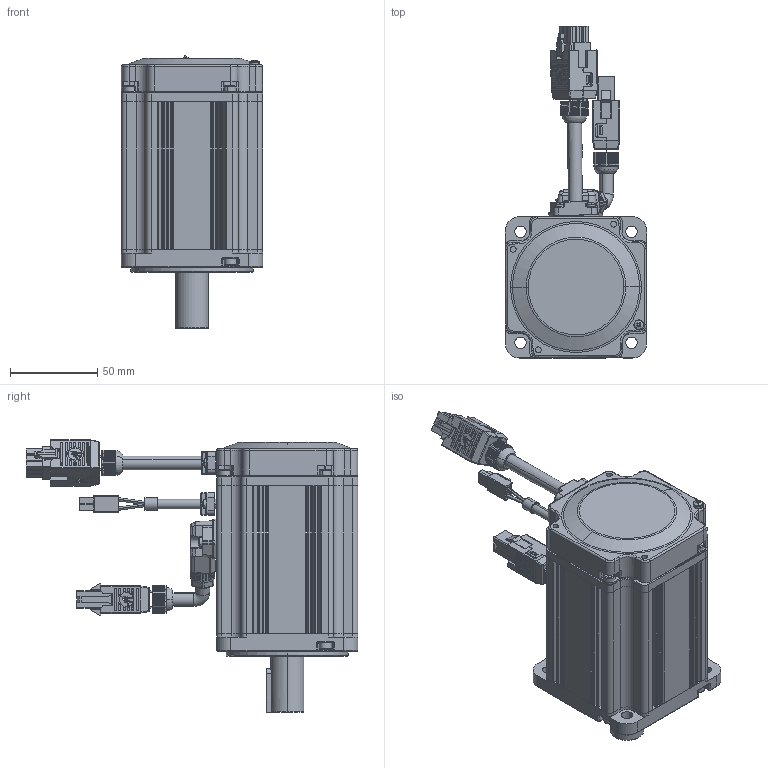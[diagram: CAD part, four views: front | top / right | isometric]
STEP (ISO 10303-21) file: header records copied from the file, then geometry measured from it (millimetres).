
FILE_DESCRIPTION (( 'STEP AP214' ), '1' );
FILE_NAME ('750W价陬萇儂.STEP', '2023-05-07T07:43:04', ( 'Windows 蚚誧' ), ( 'Organization' ), 'SwSTEP 2.0', 'SolidWorks 2021', '' );
FILE_SCHEMA (( 'AUTOMOTIVE_DESIGN' ));
Length unit declared in the file: millimetre
Products named in the file (1): 750W价陬萇儂
Bounding box: 81 x 190.12 x 156.08 mm (x, y, z)
Surface area: 90755.2 mm2 (no closed solid volume)
Topology: 0 solids, 98 shells, 2024 faces, 7468 edges, 5307 vertices
Faces by surface type: plane 913, cylinder 781, torus 211, sphere 56, bspline 41, cone 22
Entity records: 107135 total; most frequent: CARTESIAN_POINT 23153, DIRECTION 12976, ORIENTED_EDGE 11447, EDGE_CURVE 7434, VERTEX_POINT 5299, LINE 4456, VECTOR 4456, AXIS2_PLACEMENT_3D 4260
